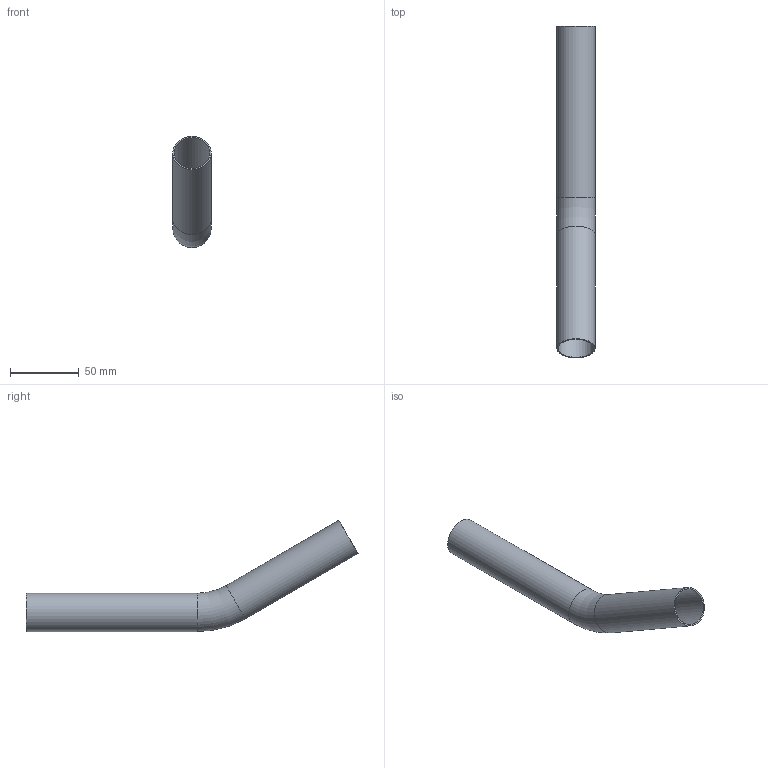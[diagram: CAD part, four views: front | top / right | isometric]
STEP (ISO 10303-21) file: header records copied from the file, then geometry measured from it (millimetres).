
FILE_DESCRIPTION(('STEP AP203'), '1');
FILE_NAME('ÂÐ.747111.013 - VTi.955.I.302828 Îòâîä 30 ãð. d28 (110õ140)', '', ('UNSPECIFIED'), ('UNSPECIFIED'), 'C3D Converter', 'C3D Toolkit', '');
FILE_SCHEMA(('CONFIG_CONTROL_DESIGN'));
Length unit declared in the file: millimetre
Products named in the file (1): ВР.747111.013
Bounding box: 28 x 242.26 x 81.12 mm (x, y, z)
Volume: 21147.3 mm3; surface area: 42464.3 mm2
Topology: 1 solids, 1 shells, 8 faces, 14 edges, 8 vertices
Faces by surface type: cylinder 4, torus 2, plane 2
Full cylindrical faces by diameter (mm): 26 x2, 28 x2
Entity records: 208 total; most frequent: DIRECTION 34, CARTESIAN_POINT 25, AXIS2_PLACEMENT_3D 17, EDGE_LOOP 16, ORIENTED_EDGE 16, FACE_OUTER_BOUND 12, ADVANCED_FACE 8, EDGE_CURVE 8
